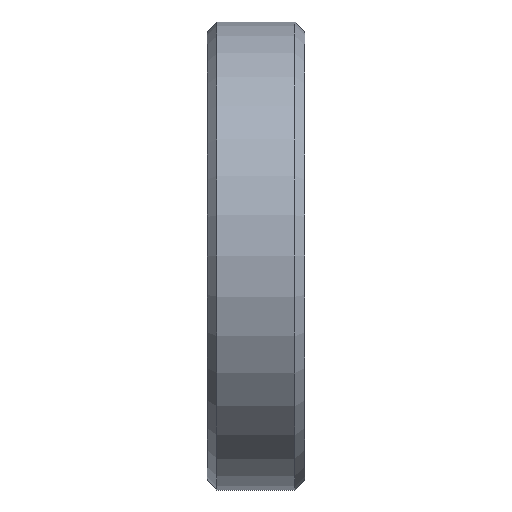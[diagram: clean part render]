
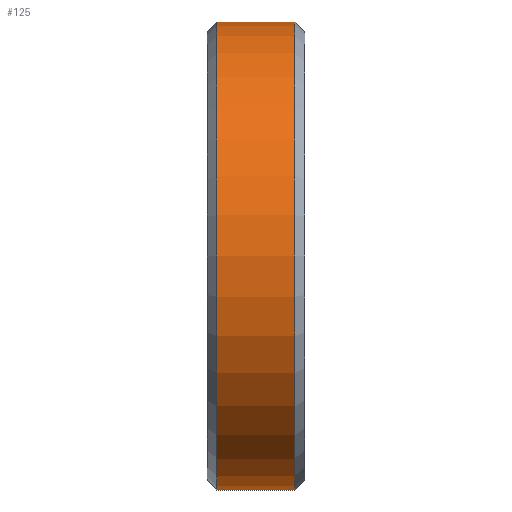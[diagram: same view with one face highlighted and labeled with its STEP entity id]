
A CAD part, front view. The second image highlights one B-rep face of the part: STEP entity #125.
In plain terms, the highlighted cylindrical face has radius 12 mm (diameter 24 mm), a full revolution.
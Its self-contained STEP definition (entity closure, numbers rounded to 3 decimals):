
#15=CYLINDRICAL_SURFACE('',#160,12.);
#23=FACE_OUTER_BOUND('',#32,.T.);
#32=EDGE_LOOP('',(#94,#95,#96,#97,#98,#99));
#40=LINE('',#233,#46);
#46=VECTOR('',#193,12.);
#52=CIRCLE('',#156,12.);
#53=CIRCLE('',#157,12.);
#55=CIRCLE('',#161,12.);
#56=CIRCLE('',#162,12.);
#62=VERTEX_POINT('',#220);
#63=VERTEX_POINT('',#222);
#65=VERTEX_POINT('',#229);
#66=VERTEX_POINT('',#230);
#73=EDGE_CURVE('',#62,#63,#52,.T.);
#74=EDGE_CURVE('',#63,#62,#53,.T.);
#76=EDGE_CURVE('',#65,#66,#55,.T.);
#77=EDGE_CURVE('',#66,#65,#56,.T.);
#78=EDGE_CURVE('',#66,#63,#40,.T.);
#94=ORIENTED_EDGE('',*,*,#76,.F.);
#95=ORIENTED_EDGE('',*,*,#77,.F.);
#96=ORIENTED_EDGE('',*,*,#78,.T.);
#97=ORIENTED_EDGE('',*,*,#73,.F.);
#98=ORIENTED_EDGE('',*,*,#74,.F.);
#99=ORIENTED_EDGE('',*,*,#78,.F.);
#125=ADVANCED_FACE('',(#23),#15,.T.);
#156=AXIS2_PLACEMENT_3D('',#223,#179,#180);
#157=AXIS2_PLACEMENT_3D('',#224,#181,#182);
#160=AXIS2_PLACEMENT_3D('',#228,#187,#188);
#161=AXIS2_PLACEMENT_3D('',#231,#189,#190);
#162=AXIS2_PLACEMENT_3D('',#232,#191,#192);
#179=DIRECTION('center_axis',(-1.,0.,0.));
#180=DIRECTION('ref_axis',(0.,-1.,0.));
#181=DIRECTION('center_axis',(-1.,0.,0.));
#182=DIRECTION('ref_axis',(0.,-1.,0.));
#187=DIRECTION('center_axis',(1.,0.,0.));
#188=DIRECTION('ref_axis',(0.,1.,0.));
#189=DIRECTION('center_axis',(1.,0.,0.));
#190=DIRECTION('ref_axis',(0.,-1.,0.));
#191=DIRECTION('center_axis',(1.,0.,0.));
#192=DIRECTION('ref_axis',(0.,-1.,0.));
#193=DIRECTION('',(-1.,0.,0.));
#220=CARTESIAN_POINT('',(-2.,12.,0.));
#222=CARTESIAN_POINT('',(-2.,-12.,0.));
#223=CARTESIAN_POINT('Origin',(-2.,0.,0.));
#224=CARTESIAN_POINT('Origin',(-2.,0.,0.));
#228=CARTESIAN_POINT('Origin',(0.,0.,0.));
#229=CARTESIAN_POINT('',(2.,12.,0.));
#230=CARTESIAN_POINT('',(2.,-12.,0.));
#231=CARTESIAN_POINT('Origin',(2.,0.,0.));
#232=CARTESIAN_POINT('Origin',(2.,0.,0.));
#233=CARTESIAN_POINT('',(0.,-12.,0.));
